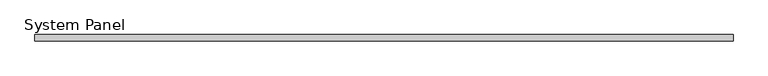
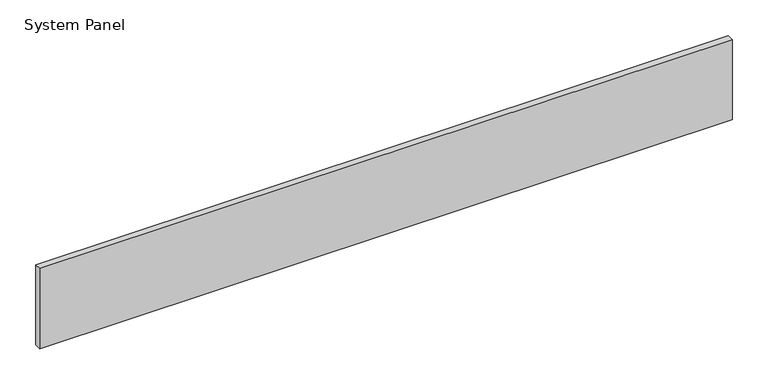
"""IFC4 building model written with IfcOpenShell, lengths in millimetres: plate geometry, System Panel : VACÍO."""

from ifc_helpers import new_model, si_unit, origin, origin_with_axes, place, context, project, spatial, polyline, outline, extrude, source, transform, mapped, element, save


def system_panel_21d1b96a(model_context):
    return source(origin(), model_context, "Body", "SweptSolid", [
        extrude(outline(polyline([(555.4173919, -5.0), (-555.4173919, -5.0), (-555.4173919, 5.0), (555.4173919, 5.0), (555.4173919, -5.0)])), origin_with_axes(), (0.0, 0.0, 1.0), 136.0),
    ])


if __name__ == "__main__":
    model = new_model("IFC4")
    model_context = context("Model", 3, world=origin())
    ifc_project = project(units=[si_unit("LENGTHUNIT", "METRE", prefix="MILLI")], contexts=[model_context])
    site = spatial("IfcSite", under=ifc_project)
    building = spatial("IfcBuilding", under=site)
    placement = place(None, origin())
    system_panel_shape = system_panel_21d1b96a(model_context)
    element("IfcPlate", 1, ObjectType="System Panel : VACÍO", at=placement, inside=building, context=model_context, shape_type="MappedRepresentation", body=[
        mapped(system_panel_shape, transform((0.0, 0.0, 0.0), x_axis=(1.0, 0.0, 0.0), y_axis=(0.0, 1.0, 0.0), z_axis=(0.0, 0.0, 1.0))),
    ])
    save(model, "model.ifc")
